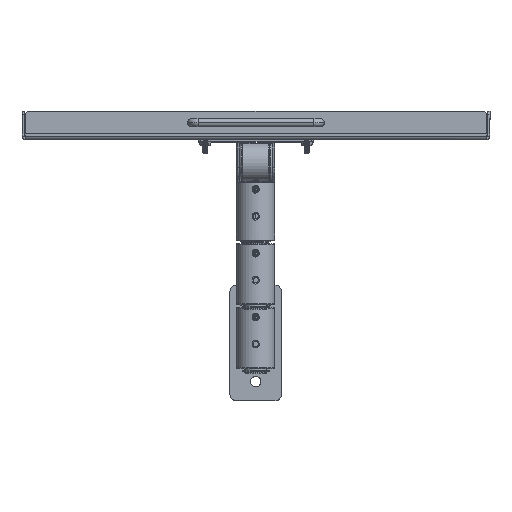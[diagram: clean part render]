
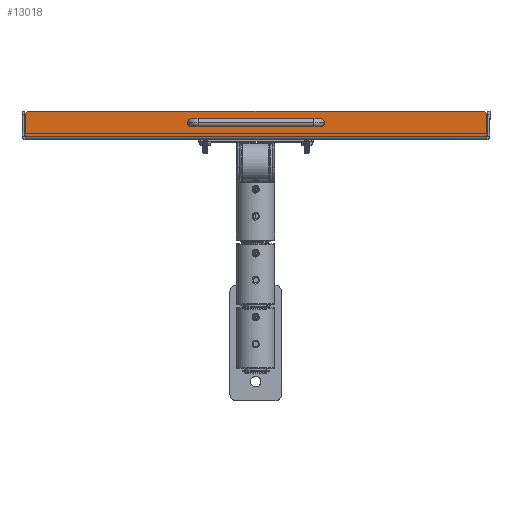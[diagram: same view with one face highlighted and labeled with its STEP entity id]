
A CAD part, top view. The second image highlights one B-rep face of the part: STEP entity #13018.
In plain terms, the highlighted planar face has unit normal (0, 0, 1).
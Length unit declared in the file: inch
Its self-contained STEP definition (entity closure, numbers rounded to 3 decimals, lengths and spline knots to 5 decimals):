
#1068 = AXIS2_PLACEMENT_3D ( 'NONE', #31248, #19467, #2743 ) ;
#1380 = VERTEX_POINT ( 'NONE', #22377 ) ;
#1792 = VERTEX_POINT ( 'NONE', #33869 ) ;
#2081 = EDGE_CURVE ( 'NONE', #1380, #7473, #18031, .T. ) ;
#2161 = DIRECTION ( 'NONE',  ( -1., 0., 0. ) ) ;
#2254 = CARTESIAN_POINT ( 'NONE',  ( 8.75, 0.032, 6.09 ) ) ;
#2585 = AXIS2_PLACEMENT_3D ( 'NONE', #30253, #29886, #24187 ) ;
#2640 = VERTEX_POINT ( 'NONE', #4926 ) ;
#2743 = DIRECTION ( 'NONE',  ( -1., 0., 0. ) ) ;
#3100 = FACE_OUTER_BOUND ( 'NONE', #31922, .T. ) ;
#3347 = ORIENTED_EDGE ( 'NONE', *, *, #26141, .F. ) ;
#3740 = LINE ( 'NONE', #3913, #15196 ) ;
#3913 = CARTESIAN_POINT ( 'NONE',  ( 8.96464, 0.75, 6.09 ) ) ;
#4926 = CARTESIAN_POINT ( 'NONE',  ( -2.6005, 0.55, 6.09 ) ) ;
#6230 = DIRECTION ( 'NONE',  ( 0., 0., -1. ) ) ;
#7388 = CARTESIAN_POINT ( 'NONE',  ( 2.3995, 0.55, 6.09 ) ) ;
#7473 = VERTEX_POINT ( 'NONE', #22584 ) ;
#7524 = CARTESIAN_POINT ( 'NONE',  ( 8.75, 1., 6.09 ) ) ;
#8281 = FACE_BOUND ( 'NONE', #16633, .T. ) ;
#8431 = EDGE_CURVE ( 'NONE', #32757, #21831, #36311, .T. ) ;
#9016 = DIRECTION ( 'NONE',  ( -1., 0., 0. ) ) ;
#9783 = CARTESIAN_POINT ( 'NONE',  ( -8.96464, 0.75, 6.09 ) ) ;
#11293 = ORIENTED_EDGE ( 'NONE', *, *, #34895, .F. ) ;
#11750 = ORIENTED_EDGE ( 'NONE', *, *, #21334, .T. ) ;
#12276 = AXIS2_PLACEMENT_3D ( 'NONE', #26581, #18309, #23287 ) ;
#12992 = VECTOR ( 'NONE', #26657, 39.37008 ) ;
#13018 = ADVANCED_FACE ( 'NONE', ( #8281, #3100, #27735 ), #22227, .T. ) ;
#15196 = VECTOR ( 'NONE', #15323, 39.37008 ) ;
#15323 = DIRECTION ( 'NONE',  ( 0., -1., 0. ) ) ;
#15899 = ORIENTED_EDGE ( 'NONE', *, *, #26604, .F. ) ;
#16035 = CARTESIAN_POINT ( 'NONE',  ( -8.75, 1., 6.09 ) ) ;
#16296 = VECTOR ( 'NONE', #27332, 39.37008 ) ;
#16370 = CIRCLE ( 'NONE', #12276, 0.25 ) ;
#16633 = EDGE_LOOP ( 'NONE', ( #28396, #18314 ) ) ;
#17062 = CARTESIAN_POINT ( 'NONE',  ( 8.75, 0.75, 6.09 ) ) ;
#17793 = CARTESIAN_POINT ( 'NONE',  ( -2.5, 0.55, 6.09 ) ) ;
#17849 = AXIS2_PLACEMENT_3D ( 'NONE', #23066, #20486, #32379 ) ;
#18031 = LINE ( 'NONE', #9783, #12992 ) ;
#18309 = DIRECTION ( 'NONE',  ( 0., 0., -1. ) ) ;
#18314 = ORIENTED_EDGE ( 'NONE', *, *, #19984, .T. ) ;
#19021 = EDGE_LOOP ( 'NONE', ( #31574, #26650 ) ) ;
#19467 = DIRECTION ( 'NONE',  ( 0., 0., -1. ) ) ;
#19984 = EDGE_CURVE ( 'NONE', #2640, #31941, #33815, .T. ) ;
#20455 = VERTEX_POINT ( 'NONE', #16035 ) ;
#20486 = DIRECTION ( 'NONE',  ( 0., 0., -1. ) ) ;
#21282 = LINE ( 'NONE', #7524, #16296 ) ;
#21334 = EDGE_CURVE ( 'NONE', #7473, #26303, #24502, .T. ) ;
#21831 = VERTEX_POINT ( 'NONE', #32374 ) ;
#21858 = ORIENTED_EDGE ( 'NONE', *, *, #22245, .F. ) ;
#22037 = DIRECTION ( 'NONE',  ( 0., 0., 1. ) ) ;
#22227 = PLANE ( 'NONE',  #27150 ) ;
#22245 = EDGE_CURVE ( 'NONE', #20455, #1792, #21282, .T. ) ;
#22377 = CARTESIAN_POINT ( 'NONE',  ( -8.96464, 0.87817, 6.09 ) ) ;
#22584 = CARTESIAN_POINT ( 'NONE',  ( -8.96464, 0.032, 6.09 ) ) ;
#22654 = AXIS2_PLACEMENT_3D ( 'NONE', #24406, #27715, #2161 ) ;
#23066 = CARTESIAN_POINT ( 'NONE',  ( 2.5, 0.55, 6.09 ) ) ;
#23287 = DIRECTION ( 'NONE',  ( 0., -1., 0. ) ) ;
#23597 = VERTEX_POINT ( 'NONE', #32792 ) ;
#24187 = DIRECTION ( 'NONE',  ( 0., -1., 0. ) ) ;
#24406 = CARTESIAN_POINT ( 'NONE',  ( -2.5, 0.55, 6.09 ) ) ;
#24502 = LINE ( 'NONE', #2254, #36244 ) ;
#26141 = EDGE_CURVE ( 'NONE', #1792, #23597, #16370, .T. ) ;
#26303 = VERTEX_POINT ( 'NONE', #36153 ) ;
#26581 = CARTESIAN_POINT ( 'NONE',  ( 8.75, 0.75, 6.09 ) ) ;
#26604 = EDGE_CURVE ( 'NONE', #23597, #26303, #3740, .T. ) ;
#26650 = ORIENTED_EDGE ( 'NONE', *, *, #8431, .T. ) ;
#26657 = DIRECTION ( 'NONE',  ( 0., -1., 0. ) ) ;
#27150 = AXIS2_PLACEMENT_3D ( 'NONE', #17062, #22037, #33991 ) ;
#27207 = CIRCLE ( 'NONE', #2585, 0.25 ) ;
#27332 = DIRECTION ( 'NONE',  ( 1., 0., 0. ) ) ;
#27715 = DIRECTION ( 'NONE',  ( 0., 0., -1. ) ) ;
#27735 = FACE_BOUND ( 'NONE', #19021, .T. ) ;
#27862 = CIRCLE ( 'NONE', #17849, 0.1005 ) ;
#28396 = ORIENTED_EDGE ( 'NONE', *, *, #28651, .T. ) ;
#28651 = EDGE_CURVE ( 'NONE', #31941, #2640, #29375, .T. ) ;
#28904 = ORIENTED_EDGE ( 'NONE', *, *, #2081, .T. ) ;
#29375 = CIRCLE ( 'NONE', #29985, 0.1005 ) ;
#29886 = DIRECTION ( 'NONE',  ( 0., 0., -1. ) ) ;
#29985 = AXIS2_PLACEMENT_3D ( 'NONE', #17793, #6230, #9016 ) ;
#30253 = CARTESIAN_POINT ( 'NONE',  ( -8.75, 0.75, 6.09 ) ) ;
#31248 = CARTESIAN_POINT ( 'NONE',  ( 2.5, 0.55, 6.09 ) ) ;
#31574 = ORIENTED_EDGE ( 'NONE', *, *, #35281, .T. ) ;
#31922 = EDGE_LOOP ( 'NONE', ( #15899, #3347, #21858, #11293, #28904, #11750 ) ) ;
#31941 = VERTEX_POINT ( 'NONE', #32762 ) ;
#32374 = CARTESIAN_POINT ( 'NONE',  ( 2.6005, 0.55, 6.09 ) ) ;
#32379 = DIRECTION ( 'NONE',  ( -1., 0., 0. ) ) ;
#32757 = VERTEX_POINT ( 'NONE', #7388 ) ;
#32762 = CARTESIAN_POINT ( 'NONE',  ( -2.3995, 0.55, 6.09 ) ) ;
#32792 = CARTESIAN_POINT ( 'NONE',  ( 8.96464, 0.87817, 6.09 ) ) ;
#33815 = CIRCLE ( 'NONE', #22654, 0.1005 ) ;
#33869 = CARTESIAN_POINT ( 'NONE',  ( 8.75, 1., 6.09 ) ) ;
#33991 = DIRECTION ( 'NONE',  ( 0., -1., 0. ) ) ;
#34895 = EDGE_CURVE ( 'NONE', #1380, #20455, #27207, .T. ) ;
#35281 = EDGE_CURVE ( 'NONE', #21831, #32757, #27862, .T. ) ;
#35733 = DIRECTION ( 'NONE',  ( 1., 0., 0. ) ) ;
#36153 = CARTESIAN_POINT ( 'NONE',  ( 8.96464, 0.032, 6.09 ) ) ;
#36244 = VECTOR ( 'NONE', #35733, 39.37008 ) ;
#36311 = CIRCLE ( 'NONE', #1068, 0.1005 ) ;
